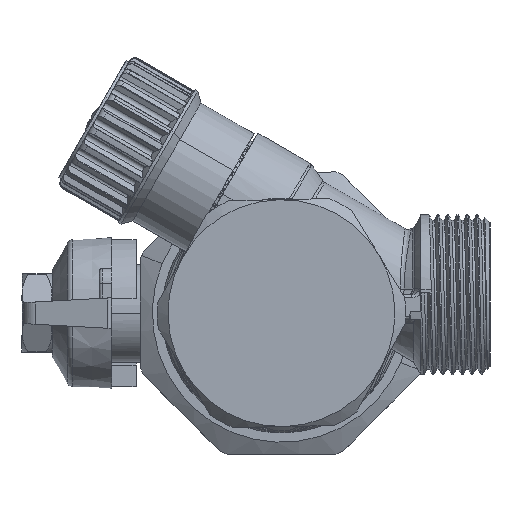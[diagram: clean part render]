
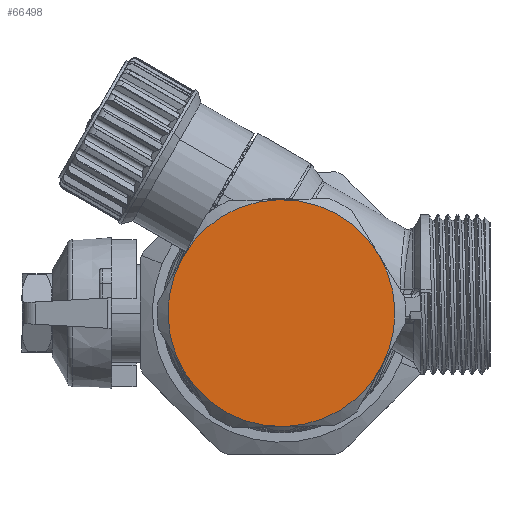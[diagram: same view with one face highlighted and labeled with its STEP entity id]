
A CAD part, left-side view. The second image highlights one B-rep face of the part: STEP entity #66498.
In plain terms, the highlighted planar face has unit normal (-1, 0, 0) as drawn and (0, 0, -1) by its records, which use the part's own axes.
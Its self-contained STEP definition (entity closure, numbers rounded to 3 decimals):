
#7032 = ORIENTED_EDGE ( 'NONE', *, *, #25924, .F. ) ;
#8173 = PLANE ( 'NONE',  #37546 ) ;
#15926 = AXIS2_PLACEMENT_3D ( 'NONE', #42750, #110602, #112056 ) ;
#17213 = VERTEX_POINT ( 'NONE', #92005 ) ;
#20148 = EDGE_CURVE ( 'NONE', #131716, #23993, #107179, .T. ) ;
#23993 = VERTEX_POINT ( 'NONE', #28587 ) ;
#24313 = EDGE_LOOP ( 'NONE', ( #35641, #123651, #7032, #129001, #43946, #49303 ) ) ;
#25905 = CARTESIAN_POINT ( 'NONE',  ( -18.5, 0., 0. ) ) ;
#25924 = EDGE_CURVE ( 'NONE', #17213, #49797, #136509, .T. ) ;
#25958 = VERTEX_POINT ( 'NONE', #75298 ) ;
#28587 = CARTESIAN_POINT ( 'NONE',  ( 9.25, 16.021, 0. ) ) ;
#32837 = DIRECTION ( 'NONE',  ( 1., 0., 0. ) ) ;
#34249 = CARTESIAN_POINT ( 'NONE',  ( 0., 0., 0. ) ) ;
#35641 = ORIENTED_EDGE ( 'NONE', *, *, #20148, .F. ) ;
#35920 = EDGE_CURVE ( 'NONE', #94119, #17213, #66116, .T. ) ;
#37546 = AXIS2_PLACEMENT_3D ( 'NONE', #130144, #77579, #65872 ) ;
#42750 = CARTESIAN_POINT ( 'NONE',  ( 0., 0., 0. ) ) ;
#43946 = ORIENTED_EDGE ( 'NONE', *, *, #47431, .T. ) ;
#44359 = AXIS2_PLACEMENT_3D ( 'NONE', #34249, #143828, #32837 ) ;
#47431 = EDGE_CURVE ( 'NONE', #94119, #25958, #103395, .T. ) ;
#49303 = ORIENTED_EDGE ( 'NONE', *, *, #117886, .F. ) ;
#49797 = VERTEX_POINT ( 'NONE', #138856 ) ;
#51313 = CIRCLE ( 'NONE', #142372, 18.5 ) ;
#52882 = CARTESIAN_POINT ( 'NONE',  ( 0., 0., 0. ) ) ;
#55505 = DIRECTION ( 'NONE',  ( 1., 0., 0. ) ) ;
#56221 = DIRECTION ( 'NONE',  ( 0., 0., 1. ) ) ;
#56686 = AXIS2_PLACEMENT_3D ( 'NONE', #52882, #107670, #86462 ) ;
#60234 = DIRECTION ( 'NONE',  ( 1., 0., 0. ) ) ;
#62747 = EDGE_CURVE ( 'NONE', #49797, #131716, #99876, .T. ) ;
#63149 = DIRECTION ( 'NONE',  ( 0., 0., 1. ) ) ;
#65072 = CARTESIAN_POINT ( 'NONE',  ( 0., 0., 0. ) ) ;
#65872 = DIRECTION ( 'NONE',  ( 1., 0., 0. ) ) ;
#66116 = CIRCLE ( 'NONE', #56686, 18.5 ) ;
#66498 = ADVANCED_FACE ( 'NONE', ( #99470 ), #8173, .F. ) ;
#71209 = CARTESIAN_POINT ( 'NONE',  ( 0., 0., 0. ) ) ;
#75298 = CARTESIAN_POINT ( 'NONE',  ( -9.25, 16.021, 0. ) ) ;
#75640 = DIRECTION ( 'NONE',  ( -1., 0., 0. ) ) ;
#77579 = DIRECTION ( 'NONE',  ( 0., 0., 1. ) ) ;
#77693 = AXIS2_PLACEMENT_3D ( 'NONE', #111919, #111191, #75640 ) ;
#86462 = DIRECTION ( 'NONE',  ( 1., 0., 0. ) ) ;
#92005 = CARTESIAN_POINT ( 'NONE',  ( -9.25, -16.021, 0. ) ) ;
#94119 = VERTEX_POINT ( 'NONE', #25905 ) ;
#99470 = FACE_OUTER_BOUND ( 'NONE', #24313, .T. ) ;
#99876 = CIRCLE ( 'NONE', #15926, 18.5 ) ;
#103395 = CIRCLE ( 'NONE', #77693, 18.5 ) ;
#107179 = CIRCLE ( 'NONE', #44359, 18.5 ) ;
#107670 = DIRECTION ( 'NONE',  ( 0., 0., 1. ) ) ;
#110602 = DIRECTION ( 'NONE',  ( 0., 0., 1. ) ) ;
#111191 = DIRECTION ( 'NONE',  ( 0., 0., -1. ) ) ;
#111919 = CARTESIAN_POINT ( 'NONE',  ( 0., 0., 0. ) ) ;
#112056 = DIRECTION ( 'NONE',  ( 1., 0., 0. ) ) ;
#112928 = CARTESIAN_POINT ( 'NONE',  ( 18.5, 0., 0. ) ) ;
#117886 = EDGE_CURVE ( 'NONE', #23993, #25958, #51313, .T. ) ;
#123651 = ORIENTED_EDGE ( 'NONE', *, *, #62747, .F. ) ;
#129001 = ORIENTED_EDGE ( 'NONE', *, *, #35920, .F. ) ;
#130144 = CARTESIAN_POINT ( 'NONE',  ( 0., 0., 0. ) ) ;
#131716 = VERTEX_POINT ( 'NONE', #112928 ) ;
#136509 = CIRCLE ( 'NONE', #143546, 18.5 ) ;
#138856 = CARTESIAN_POINT ( 'NONE',  ( 9.25, -16.021, 0. ) ) ;
#142372 = AXIS2_PLACEMENT_3D ( 'NONE', #71209, #63149, #60234 ) ;
#143546 = AXIS2_PLACEMENT_3D ( 'NONE', #65072, #56221, #55505 ) ;
#143828 = DIRECTION ( 'NONE',  ( 0., 0., 1. ) ) ;
